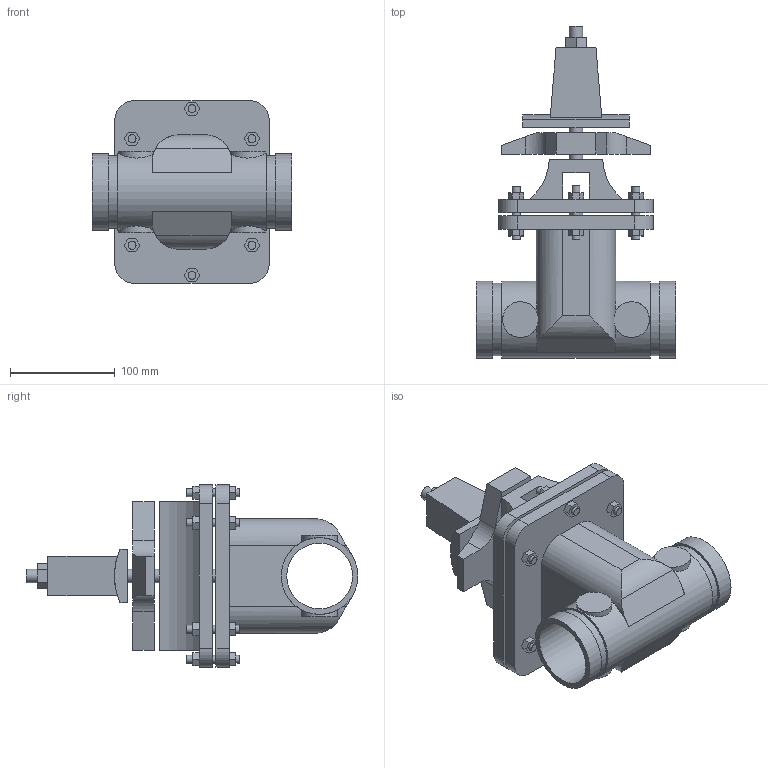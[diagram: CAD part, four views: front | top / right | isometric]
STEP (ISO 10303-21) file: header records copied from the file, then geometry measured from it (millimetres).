
FILE_DESCRIPTION(/* description */ ('VIC GATE VALVE SERIES 772H NRS','CAx-IF Rec.Pracs.---Representation and Presentation of Product Manufacturing Information (PMI)---4.0---2014-10-13'),/* implementation_level */ '2;1');
FILE_NAME(/* name */ 'C:\Users\Vjadhav\AppData\Roaming\Autodesk\ApplicationPlugins\Back Up\Victaulic_FP-FireLock_Valve Gate NRS_Series 772H (OGS)\Victaulic_FP-FireLock_Valve Gate NRS_Series 772H (OGS)_2.5 (65).stp',/* time_stamp */ '2020-07-20T15:49:21+05:00',/* author */ ('kkamble'),/* organization */ ('Victaulic'),/* preprocessor_version */ 'ST-DEVELOPER v17.2',/* originating_system */ 'Autodesk Inventor 2019',/* authorisation */ '');
FILE_SCHEMA (('AP242_MANAGED_MODEL_BASED_3D_ENGINEERING_MIM_LF { 1 0 10303 442 1 1 4 }'));
Length unit declared in the file: inch
Products named in the file (1): 772H-02.5
Bounding box: 190.5 x 316.48 x 173.99 mm (x, y, z)
Volume: 2048096.7 mm3; surface area: 297791.1 mm2
Topology: 1 solids, 1 shells, 221 faces, 559 edges, 379 vertices
Faces by surface type: plane 168, cylinder 53
Full cylindrical faces by diameter (mm): 7.62 x18, 12.7 x4, 62.706 x1, 69.088 x2, 73.152 x3
Entity records: 7397 total; most frequent: CARTESIAN_POINT 1577, DIRECTION 1126, ORIENTED_EDGE 1118, EDGE_CURVE 559, LINE 406, VECTOR 406, VERTEX_POINT 379, AXIS2_PLACEMENT_3D 360
